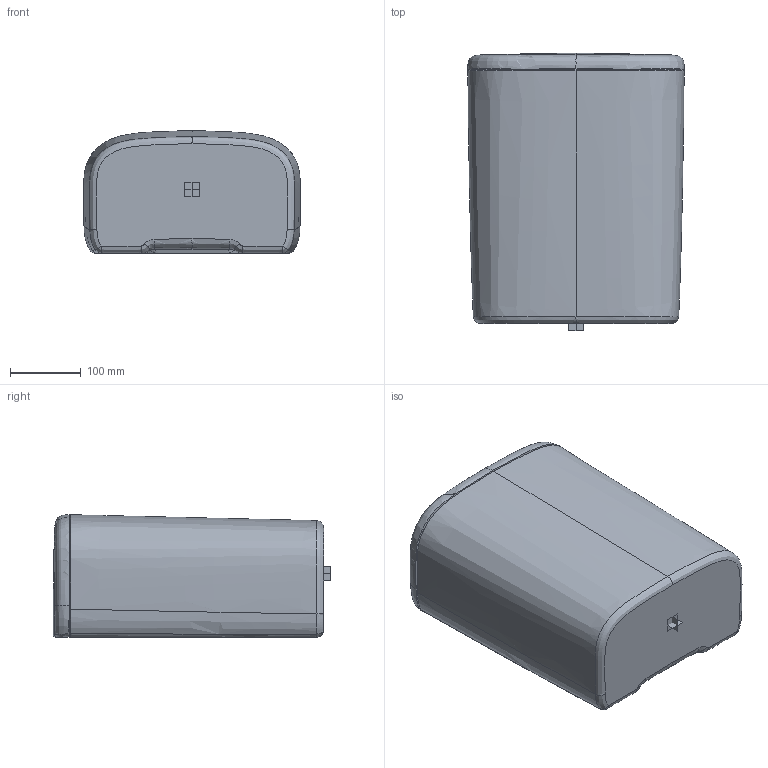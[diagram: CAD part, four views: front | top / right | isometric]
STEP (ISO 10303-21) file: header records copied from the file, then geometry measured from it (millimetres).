
FILE_DESCRIPTION((''),'2;1');
FILE_NAME('T3575_MK1_3DPL','2015-06-22T',('TotevD'),('AMERICAN STANDARD B&K'),'PRO/ENGINEER BY PARAMETRIC TECHNOLOGY CORPORATION, 2011330','PRO/ENGINEER BY PARAMETRIC TECHNOLOGY CORPORATION, 2011330','');
FILE_SCHEMA(('CONFIG_CONTROL_DESIGN'));
Length unit declared in the file: millimetre
Products named in the file (1): T3575_MK1_3DPL
Bounding box: 307.49 x 392.8 x 173.7 mm (x, y, z)
Volume: 18203513.7 mm3; surface area: 418191.9 mm2
Topology: 1 solids, 4 shells, 63 faces, 207 edges, 149 vertices
Faces by surface type: bspline 52, plane 11
Entity records: 10233 total; most frequent: CARTESIAN_POINT 8840, ORIENTED_EDGE 402, EDGE_CURVE 207, B_SPLINE_CURVE_WITH_KNOTS 160, VERTEX_POINT 149, DIRECTION 95, EDGE_LOOP 63, FACE_OUTER_BOUND 63
